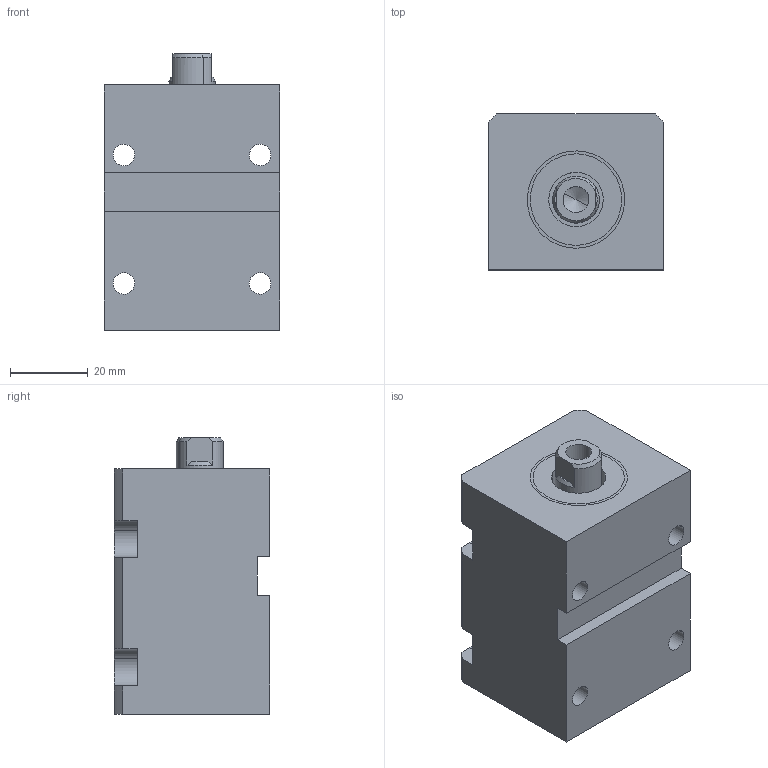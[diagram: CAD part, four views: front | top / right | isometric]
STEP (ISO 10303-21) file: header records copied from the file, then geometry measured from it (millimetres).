
FILE_DESCRIPTION(('CATIA V5 STEP Exchange'),'2;1');
FILE_NAME('\\Kjf-102\kjf_tc\Hydraulic_Clamp\Standard\BLOCK_CLAMP\BDV-20xx\Rev_B\배포도면\BDH-2020_B.stp','2025-03-14T07:04:39+00:00',('none'),('none'),'CATIA Version 5 Release 19 SP 6 (IN-10)','CATIA V5 STEP AP203','none');
FILE_SCHEMA(('CONFIG_CONTROL_DESIGN'));
Length unit declared in the file: millimetre
Products named in the file (1): BDH-20xx_A
Assembly tree (4 placements, depth 2):
  BDH-20xx_A
    #58
    #81
    #1701
    #2287
Bounding box: 45 x 40 x 71 mm (x, y, z)
Volume: 93437 mm3; surface area: 27448.3 mm2
Topology: 3 solids, 3 shells, 83 faces, 220 edges, 147 vertices
Faces by surface type: cylinder 40, plane 35, cone 8
Entity records: 2508 total; most frequent: CARTESIAN_POINT 461, ORIENTED_EDGE 436, DIRECTION 322, EDGE_CURVE 218, AXIS2_PLACEMENT_3D 150, VERTEX_POINT 147, VECTOR 116, LINE 116
